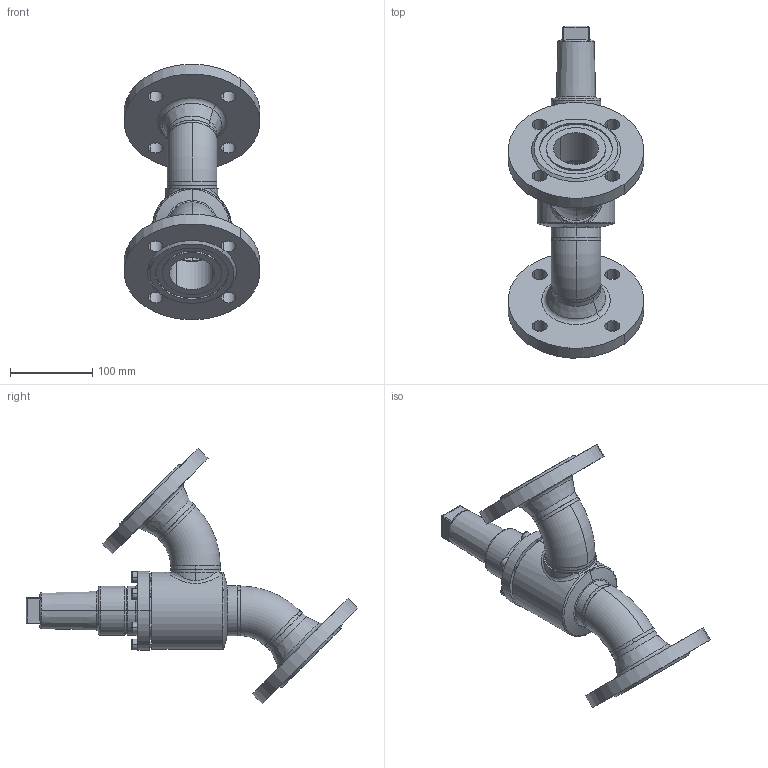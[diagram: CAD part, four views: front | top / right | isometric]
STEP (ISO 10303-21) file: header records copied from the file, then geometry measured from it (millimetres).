
FILE_DESCRIPTION (( 'STEP AP214' ), '1' );
FILE_NAME ('AVR26320D15-DN050_DIN-FL-N_PS40.STEP', '2006-04-27T13:37:15', ( 'Herr Grams' ), ( 'AWP GmbH' ), 'SwSTEP 2.0', 'SolidWorks 2002296', '' );
FILE_SCHEMA (( 'AUTOMOTIVE_DESIGN' ));
Length unit declared in the file: millimetre
Products named in the file (14): AVR26320D15-DN050_DIN-FL-N_PS40; Gehäuse-kpl16320-DN050_DIN_PS40_Standard; Gehäuse-kpl16300-DN050_R1_Standard; Gehäuse16300-DN050_Standard; Rohrbogen 45°_R1-Fase_Rohrbogen-DN050-45°; bead16300-Geh-050-2_Standard; bead16300-Geh-050-1_Standard; Flansch-DIN2635-Nut_PS40_DIN-Flansch-DN050_PS40-Nut; bead16320-DN050-2_Standard; bead16320-DN050-1_Standard; AVR26300E15_Deck+Schr-DN40-50_Standard; Deckel26300E15-DN40-50_Standard; Zylinderschraube-DIN912_M 8x 25; Kappe16402_DN040-65_Standard
Assembly tree (20 placements, depth 4):
  AVR26320D15-DN050_DIN-FL-N_PS40
    Kappe16402_DN040-65_Standard
    Gehäuse-kpl16320-DN050_DIN_PS40_Standard
      Gehäuse-kpl16300-DN050_R1_Standard
        Rohrbogen 45°_R1-Fase_Rohrbogen-DN050-45°  x2
        bead16300-Geh-050-2_Standard
        Gehäuse16300-DN050_Standard
        bead16300-Geh-050-1_Standard
      bead16320-DN050-2_Standard
      Flansch-DIN2635-Nut_PS40_DIN-Flansch-DN050_PS40-Nut  x2
      bead16320-DN050-1_Standard
    AVR26300E15_Deck+Schr-DN40-50_Standard
      Zylinderschraube-DIN912_M 8x 25  x6
      Deckel26300E15-DN40-50_Standard
Bounding box: 164.37 x 403.38 x 310.28 mm (x, y, z)
Volume: 1441226.9 mm3; surface area: 314490.2 mm2
Topology: 17 solids, 17 shells, 362 faces, 837 edges, 528 vertices
Faces by surface type: cylinder 129, plane 107, cone 70, torus 37, bspline 19
Entity records: 56219 total; most frequent: CARTESIAN_POINT 50102, DIRECTION 1134, ORIENTED_EDGE 1086, EDGE_CURVE 543, AXIS2_PLACEMENT_3D 482, VERTEX_POINT 342, EDGE_LOOP 275, CIRCLE 245
